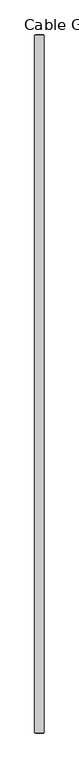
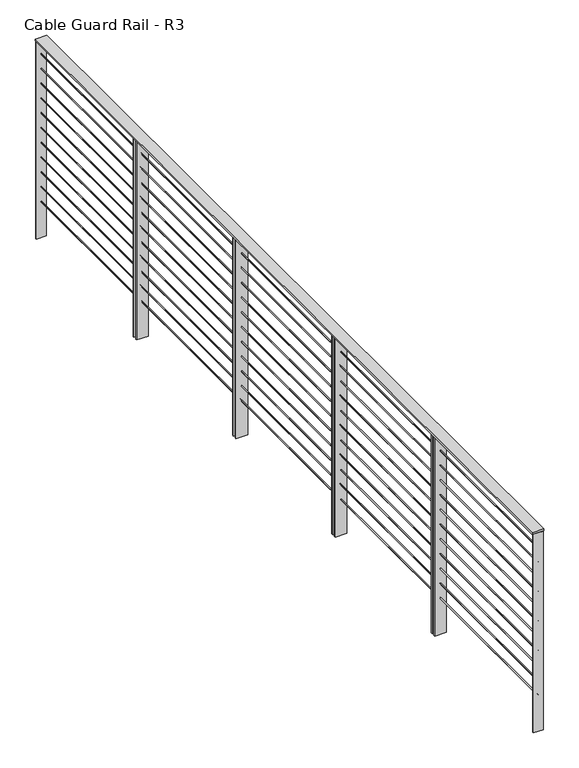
"""IFC4 building model written with IfcOpenShell, lengths in millimetres: railing geometry, Cable Guard Rail - R3."""

from ifc_helpers import new_model, si_unit, point, frame, frame_2d, origin, place, context, project, spatial, polyline, circle_curve, trimmed, segment, composite_curve, outline, extrude, source, transform, mapped, element, save


def cable_guard_rail_r3_9873a473(model_context):
    return source(origin(), model_context, "Body", "SweptSolid", [
        extrude(outline(polyline([(40071.6390585, 175351.2936306), (39995.4390585, 175351.2936306), (39995.4390585, 180955.2689918), (40071.6390585, 180955.2689918), (40071.6390585, 175351.2936306)])), frame((0.0, 0.0, 294887.65), z_axis=(0.0, 0.0, 1.0), x_axis=(1.0, 0.0, 0.0)), (0.0, 0.0, 1.0), 12.7),
        extrude(outline(composite_curve([segment(trimmed(circle_curve(frame_2d((294786.05, 40033.5390585)), 3.175), [point((294786.05, 40030.3640585))], [point((294786.05, 40036.7140585))], False, "CARTESIAN"), True, "CONTINUOUS"), segment(trimmed(circle_curve(frame_2d((294786.05, 40033.5390585)), 3.175), [point((294786.05, 40036.7140585))], [point((294786.05, 40030.3640585))], False, "CARTESIAN"), True, "CONTINUOUS")], self_intersect=False)), frame((0.0, 175351.2936306, 0.0), z_axis=(0.0, 1.0, 0.0), x_axis=(0.0, 0.0, 1.0)), (0.0, 0.0, 1.0), 5603.9753612),
        extrude(outline(composite_curve([segment(trimmed(circle_curve(frame_2d((294684.45, 40033.5390585)), 3.175), [point((294684.45, 40030.3640585))], [point((294684.45, 40036.7140585))], False, "CARTESIAN"), True, "CONTINUOUS"), segment(trimmed(circle_curve(frame_2d((294684.45, 40033.5390585)), 3.175), [point((294684.45, 40036.7140585))], [point((294684.45, 40030.3640585))], False, "CARTESIAN"), True, "CONTINUOUS")], self_intersect=False)), frame((0.0, 175351.2936306, 0.0), z_axis=(0.0, 1.0, 0.0), x_axis=(0.0, 0.0, 1.0)), (0.0, 0.0, 1.0), 5603.9753612),
        extrude(outline(composite_curve([segment(trimmed(circle_curve(frame_2d((294582.85, 40033.5390585)), 3.175), [point((294582.85, 40030.3640585))], [point((294582.85, 40036.7140585))], False, "CARTESIAN"), True, "CONTINUOUS"), segment(trimmed(circle_curve(frame_2d((294582.85, 40033.5390585)), 3.175), [point((294582.85, 40036.7140585))], [point((294582.85, 40030.3640585))], False, "CARTESIAN"), True, "CONTINUOUS")], self_intersect=False)), frame((0.0, 175351.2936306, 0.0), z_axis=(0.0, 1.0, 0.0), x_axis=(0.0, 0.0, 1.0)), (0.0, 0.0, 1.0), 5603.9753612),
        extrude(outline(composite_curve([segment(trimmed(circle_curve(frame_2d((294481.25, 40033.5390585)), 3.175), [point((294481.25, 40030.3640585))], [point((294481.25, 40036.7140585))], False, "CARTESIAN"), True, "CONTINUOUS"), segment(trimmed(circle_curve(frame_2d((294481.25, 40033.5390585)), 3.175), [point((294481.25, 40036.7140585))], [point((294481.25, 40030.3640585))], False, "CARTESIAN"), True, "CONTINUOUS")], self_intersect=False)), frame((0.0, 175351.2936306, 0.0), z_axis=(0.0, 1.0, 0.0), x_axis=(0.0, 0.0, 1.0)), (0.0, 0.0, 1.0), 5603.9753612),
        extrude(outline(composite_curve([segment(trimmed(circle_curve(frame_2d((294379.65, 40033.5390585)), 3.175), [point((294379.65, 40030.3640585))], [point((294379.65, 40036.7140585))], False, "CARTESIAN"), True, "CONTINUOUS"), segment(trimmed(circle_curve(frame_2d((294379.65, 40033.5390585)), 3.175), [point((294379.65, 40036.7140585))], [point((294379.65, 40030.3640585))], False, "CARTESIAN"), True, "CONTINUOUS")], self_intersect=False)), frame((0.0, 175351.2936306, 0.0), z_axis=(0.0, 1.0, 0.0), x_axis=(0.0, 0.0, 1.0)), (0.0, 0.0, 1.0), 5603.9753612),
        extrude(outline(composite_curve([segment(trimmed(circle_curve(frame_2d((294278.05, 40033.5390585)), 3.175), [point((294278.05, 40030.3640585))], [point((294278.05, 40036.7140585))], False, "CARTESIAN"), True, "CONTINUOUS"), segment(trimmed(circle_curve(frame_2d((294278.05, 40033.5390585)), 3.175), [point((294278.05, 40036.7140585))], [point((294278.05, 40030.3640585))], False, "CARTESIAN"), True, "CONTINUOUS")], self_intersect=False)), frame((0.0, 175351.2936306, 0.0), z_axis=(0.0, 1.0, 0.0), x_axis=(0.0, 0.0, 1.0)), (0.0, 0.0, 1.0), 5603.9753612),
        extrude(outline(composite_curve([segment(trimmed(circle_curve(frame_2d((294176.45, 40033.5390585)), 3.175), [point((294176.45, 40030.3640585))], [point((294176.45, 40036.7140585))], False, "CARTESIAN"), True, "CONTINUOUS"), segment(trimmed(circle_curve(frame_2d((294176.45, 40033.5390585)), 3.175), [point((294176.45, 40036.7140585))], [point((294176.45, 40030.3640585))], False, "CARTESIAN"), True, "CONTINUOUS")], self_intersect=False)), frame((0.0, 175351.2936306, 0.0), z_axis=(0.0, 1.0, 0.0), x_axis=(0.0, 0.0, 1.0)), (0.0, 0.0, 1.0), 5603.9753612),
        extrude(outline(composite_curve([segment(trimmed(circle_curve(frame_2d((294074.85, 40033.5390585)), 3.175), [point((294074.85, 40030.3640585))], [point((294074.85, 40036.7140585))], False, "CARTESIAN"), True, "CONTINUOUS"), segment(trimmed(circle_curve(frame_2d((294074.85, 40033.5390585)), 3.175), [point((294074.85, 40036.7140585))], [point((294074.85, 40030.3640585))], False, "CARTESIAN"), True, "CONTINUOUS")], self_intersect=False)), frame((0.0, 175351.2936306, 0.0), z_axis=(0.0, 1.0, 0.0), x_axis=(0.0, 0.0, 1.0)), (0.0, 0.0, 1.0), 5603.9753612),
        extrude(outline(composite_curve([segment(trimmed(circle_curve(frame_2d((293973.25, 40033.5390585)), 3.175), [point((293973.25, 40030.3640585))], [point((293973.25, 40036.7140585))], False, "CARTESIAN"), True, "CONTINUOUS"), segment(trimmed(circle_curve(frame_2d((293973.25, 40033.5390585)), 3.175), [point((293973.25, 40036.7140585))], [point((293973.25, 40030.3640585))], False, "CARTESIAN"), True, "CONTINUOUS")], self_intersect=False)), frame((0.0, 175351.2936306, 0.0), z_axis=(0.0, 1.0, 0.0), x_axis=(0.0, 0.0, 1.0)), (0.0, 0.0, 1.0), 5603.9753612),
        extrude(outline(composite_curve([segment(trimmed(circle_curve(frame_2d((293871.65, 40033.5390585)), 3.175), [point((293871.65, 40030.3640585))], [point((293871.65, 40036.7140585))], False, "CARTESIAN"), True, "CONTINUOUS"), segment(trimmed(circle_curve(frame_2d((293871.65, 40033.5390585)), 3.175), [point((293871.65, 40036.7140585))], [point((293871.65, 40030.3640585))], False, "CARTESIAN"), True, "CONTINUOUS")], self_intersect=False)), frame((0.0, 175351.2936306, 0.0), z_axis=(0.0, 1.0, 0.0), x_axis=(0.0, 0.0, 1.0)), (0.0, 0.0, 1.0), 5603.9753612),
        extrude(outline(composite_curve([segment(trimmed(circle_curve(frame_2d((293770.05, 40033.5390585)), 3.175), [point((293770.05, 40030.3640585))], [point((293770.05, 40036.7140585))], False, "CARTESIAN"), True, "CONTINUOUS"), segment(trimmed(circle_curve(frame_2d((293770.05, 40033.5390585)), 3.175), [point((293770.05, 40036.7140585))], [point((293770.05, 40030.3640585))], False, "CARTESIAN"), True, "CONTINUOUS")], self_intersect=False)), frame((0.0, 175351.2936306, 0.0), z_axis=(0.0, 1.0, 0.0), x_axis=(0.0, 0.0, 1.0)), (0.0, 0.0, 1.0), 5603.9753612),
        extrude(outline(polyline([(39995.4390585, 179812.2489195), (39995.4390585, 179821.7739195), (40071.6390585, 179821.7739195), (40071.6390585, 179812.2489195), (39995.4390585, 179812.2489195)])), frame((0.0, 0.0, 293522.4), z_axis=(0.0, 0.0, 1.0), x_axis=(1.0, 0.0, 0.0)), (0.0, 0.0, 1.0), 1365.25),
        extrude(outline(polyline([(39995.4390585, 179840.8239195), (39995.4390585, 179850.3006841), (40071.6390585, 179850.3006841), (40071.6390585, 179840.8239195), (39995.4390585, 179840.8239195)])), frame((0.0, 0.0, 293522.4), z_axis=(0.0, 0.0, 1.0), x_axis=(1.0, 0.0, 0.0)), (0.0, 0.0, 1.0), 1365.25),
        extrude(outline(polyline([(39995.4390585, 178691.4538473), (39995.4390585, 178700.9788473), (40071.6390585, 178700.9788473), (40071.6390585, 178691.4538473), (39995.4390585, 178691.4538473)])), frame((0.0, 0.0, 293522.4), z_axis=(0.0, 0.0, 1.0), x_axis=(1.0, 0.0, 0.0)), (0.0, 0.0, 1.0), 1365.25),
        extrude(outline(polyline([(39995.4390585, 178720.0288473), (39995.4390585, 178729.5056119), (40071.6390585, 178729.5056119), (40071.6390585, 178720.0288473), (39995.4390585, 178720.0288473)])), frame((0.0, 0.0, 293522.4), z_axis=(0.0, 0.0, 1.0), x_axis=(1.0, 0.0, 0.0)), (0.0, 0.0, 1.0), 1365.25),
        extrude(outline(polyline([(39995.4390585, 177570.6587751), (39995.4390585, 177580.1837751), (40071.6390585, 177580.1837751), (40071.6390585, 177570.6587751), (39995.4390585, 177570.6587751)])), frame((0.0, 0.0, 293522.4), z_axis=(0.0, 0.0, 1.0), x_axis=(1.0, 0.0, 0.0)), (0.0, 0.0, 1.0), 1365.25),
        extrude(outline(polyline([(39995.4390585, 177599.2337751), (39995.4390585, 177608.7105397), (40071.6390585, 177608.7105397), (40071.6390585, 177599.2337751), (39995.4390585, 177599.2337751)])), frame((0.0, 0.0, 293522.4), z_axis=(0.0, 0.0, 1.0), x_axis=(1.0, 0.0, 0.0)), (0.0, 0.0, 1.0), 1365.25),
        extrude(outline(polyline([(39995.4390585, 176449.8637028), (39995.4390585, 176459.3887028), (40071.6390585, 176459.3887028), (40071.6390585, 176449.8637028), (39995.4390585, 176449.8637028)])), frame((0.0, 0.0, 293522.4), z_axis=(0.0, 0.0, 1.0), x_axis=(1.0, 0.0, 0.0)), (0.0, 0.0, 1.0), 1365.25),
        extrude(outline(polyline([(39995.4390585, 176478.4387028), (39995.4390585, 176487.9154674), (40071.6390585, 176487.9154674), (40071.6390585, 176478.4387028), (39995.4390585, 176478.4387028)])), frame((0.0, 0.0, 293522.4), z_axis=(0.0, 0.0, 1.0), x_axis=(1.0, 0.0, 0.0)), (0.0, 0.0, 1.0), 1365.25),
        extrude(outline(polyline([(40001.7890585, 180952.0939918), (40001.7890585, 180958.4439918), (40065.2890585, 180958.4439918), (40065.2890585, 180952.0939918), (40001.7890585, 180952.0939918)])), frame((0.0, 0.0, 293522.4), z_axis=(0.0, 0.0, 1.0), x_axis=(1.0, 0.0, 0.0)), (0.0, 0.0, 1.0), 1365.25),
        extrude(outline(polyline([(40001.7890585, 175348.1186306), (40001.7890585, 175354.4686306), (40065.2890585, 175354.4686306), (40065.2890585, 175348.1186306), (40001.7890585, 175348.1186306)])), frame((0.0, 0.0, 293522.4), z_axis=(0.0, 0.0, 1.0), x_axis=(1.0, 0.0, 0.0)), (0.0, 0.0, 1.0), 1365.25),
    ])


if __name__ == "__main__":
    model = new_model("IFC4")
    model_context = context("Model", 3, world=origin())
    ifc_project = project(units=[si_unit("LENGTHUNIT", "METRE", prefix="MILLI")], contexts=[model_context])
    site = spatial("IfcSite", under=ifc_project)
    building = spatial("IfcBuilding", under=site)
    placement = place(None, origin())
    cable_guard_rail_r3_shape = cable_guard_rail_r3_9873a473(model_context)
    element("IfcRailing", 1, ObjectType="Cable Guard Rail - R3", at=placement, inside=building, context=model_context, shape_type="MappedRepresentation", body=[
        mapped(cable_guard_rail_r3_shape, transform((0.0, 0.0, 0.0), x_axis=(1.0, 0.0, 0.0), y_axis=(0.0, 1.0, 0.0), z_axis=(0.0, 0.0, 1.0))),
    ])
    save(model, "model.ifc")
